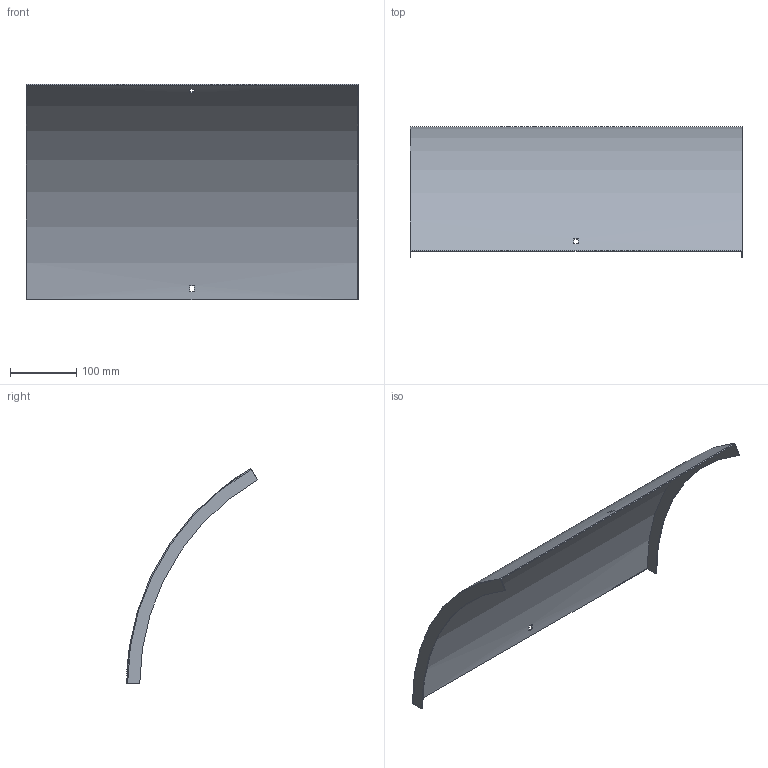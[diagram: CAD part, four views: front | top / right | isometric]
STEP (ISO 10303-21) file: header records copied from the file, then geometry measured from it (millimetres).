
FILE_DESCRIPTION (( 'STEP AP214' ), '1' );
FILE_NAME ('B2_41N3C500.step', '2025-02-21T10:41:13', ( '' ), ( '' ), 'SwSTEP 2.0', 'SolidWorks 2023', '' );
FILE_SCHEMA (( 'AUTOMOTIVE_DESIGN' ));
Length unit declared in the file: millimetre
Products named in the file (1): B2_41N3C500
Bounding box: 503 x 198.25 x 326.06 mm (x, y, z)
Volume: 317965.6 mm3; surface area: 426789.5 mm2
Topology: 1 solids, 1 shells, 18 faces, 48 edges, 32 vertices
Faces by surface type: plane 14, cylinder 4
Entity records: 599 total; most frequent: DIRECTION 102, CARTESIAN_POINT 99, ORIENTED_EDGE 96, EDGE_CURVE 48, AXIS2_PLACEMENT_3D 35, VERTEX_POINT 32, LINE 32, VECTOR 32
